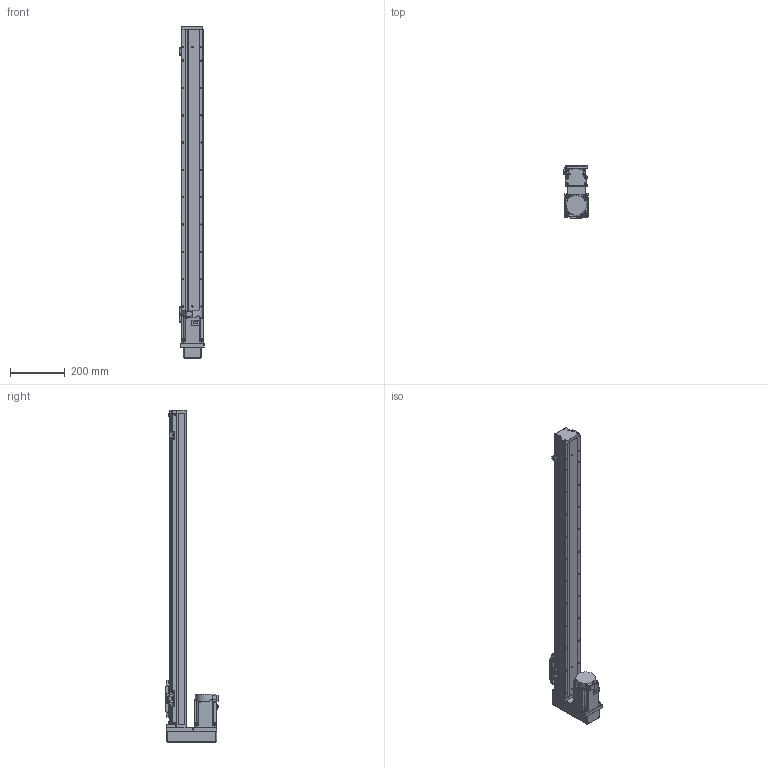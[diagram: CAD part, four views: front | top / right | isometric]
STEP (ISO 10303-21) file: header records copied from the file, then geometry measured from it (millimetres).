
FILE_DESCRIPTION (( 'STEP AP203' ), '1' );
FILE_NAME ('GTH8-950-BM-M75-C4.step', '2023-02-14T02:30:26', ( '微软用户' ), ( '微软中国' ), 'SwSTEP 2.0', 'SolidWorks 2020', '' );
FILE_SCHEMA (( 'CONFIG_CONTROL_DESIGN' ));
Length unit declared in the file: millimetre
Products named in the file (18): GTH50-023; GTH80-006; GBT 70.3-M3℅6; GBT96.1-2002 3×0.8; GTH80-013; GTH80-022; BTH-M3X5X6; GBT 70.1-M3℅6; CTHA86-015-3_CTHA86-015-4; GBT 70.1-M4×16; GTH80-001_950; CTHA86-035; GTH80-028; GTH80-003; hg-kn73j_-s100; GTH50-024; GTH80-004; GTH8-950-BM-M75-C4
Assembly tree (57 placements, depth 2):
  GTH8-950-BM-M75-C4
    GTH80-001_950
    GTH80-003
    GTH80-004
    GTH80-006
    GTH80-013
    GBT 70.3-M3℅6  x4
    GTH80-022
    GBT 70.1-M3℅6  x14
    GBT 70.1-M4×16  x8
    GTH80-028  x2
    GTH50-024  x3
    GTH50-023  x3
    GBT96.1-2002 3×0.8  x6
    BTH-M3X5X6  x8
    CTHA86-015-3_CTHA86-015-4
    CTHA86-035
    hg-kn73j_-s100
Bounding box: 89.4 x 195.3 x 1216 mm (x, y, z)
Volume: 6479594.1 mm3; surface area: 623347.6 mm2
Topology: 59 solids, 59 shells, 2211 faces, 5142 edges, 3152 vertices
Faces by surface type: plane 1153, cylinder 643, cone 243, torus 158, sphere 12, bspline 2
Entity records: 40180 total; most frequent: CARTESIAN_POINT 6743, DIRECTION 6641, ORIENTED_EDGE 6094, EDGE_CURVE 3047, AXIS2_PLACEMENT_3D 2350, LINE 1941, VECTOR 1941, VERTEX_POINT 1927
